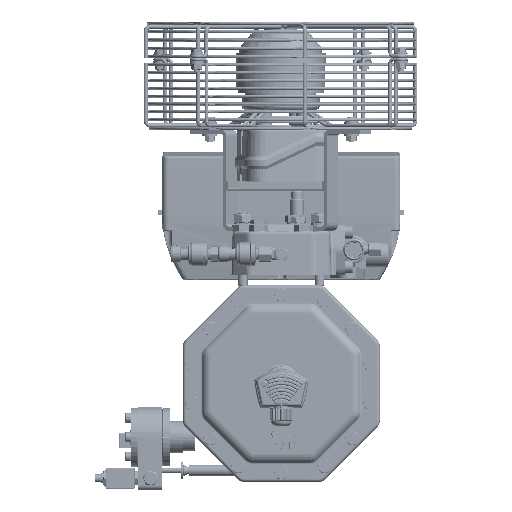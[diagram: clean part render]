
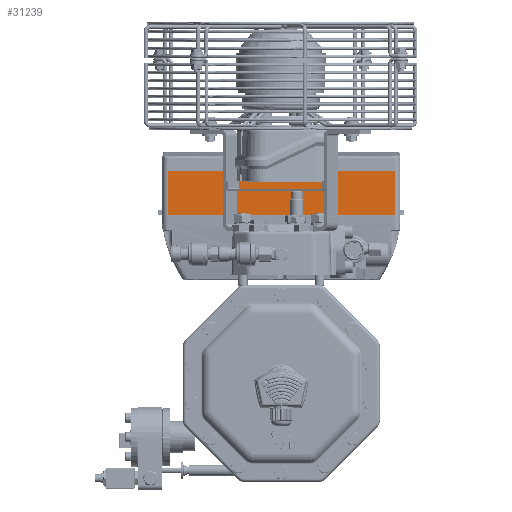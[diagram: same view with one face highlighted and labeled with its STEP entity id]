
A CAD part, left-side view. The second image highlights one B-rep face of the part: STEP entity #31239.
In plain terms, the highlighted planar face has unit normal (-1, 0, 0) as drawn and (1, 0, 0) by its records, which use the part's own axes.
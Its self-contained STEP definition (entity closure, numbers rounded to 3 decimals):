
#9634=LINE('',#207753,#14988);
#9734=LINE('',#208383,#15088);
#9735=LINE('',#208386,#15089);
#9736=LINE('',#208387,#15090);
#14988=VECTOR('',#124605,1.);
#15088=VECTOR('',#124889,1.);
#15089=VECTOR('',#124890,1.);
#15090=VECTOR('',#124891,1.);
#24515=FACE_OUTER_BOUND('',#43108,.T.);
#31239=ADVANCED_FACE('',(#24515),#35050,.T.);
#35050=PLANE('',#107156);
#43108=EDGE_LOOP('',(#62880,#62881,#62882,#62883));
#62880=ORIENTED_EDGE('',*,*,#92236,.F.);
#62881=ORIENTED_EDGE('',*,*,#92237,.T.);
#62882=ORIENTED_EDGE('',*,*,#92040,.T.);
#62883=ORIENTED_EDGE('',*,*,#92238,.T.);
#79797=VERTEX_POINT('',#207752);
#79798=VERTEX_POINT('',#207754);
#79976=VERTEX_POINT('',#208384);
#79977=VERTEX_POINT('',#208385);
#92040=EDGE_CURVE('',#79798,#79797,#9634,.T.);
#92236=EDGE_CURVE('',#79976,#79977,#9734,.T.);
#92237=EDGE_CURVE('',#79976,#79798,#9735,.T.);
#92238=EDGE_CURVE('',#79797,#79977,#9736,.T.);
#107156=AXIS2_PLACEMENT_3D('',#208388,#124892,#124893);
#124605=DIRECTION('',(0.,1.,0.));
#124889=DIRECTION('',(0.,1.,0.));
#124890=DIRECTION('',(0.,0.,-1.));
#124891=DIRECTION('',(0.,0.,1.));
#124892=DIRECTION('',(1.,0.,0.));
#124893=DIRECTION('',(0.,0.,1.));
#207752=CARTESIAN_POINT('',(73.,116.,66.));
#207753=CARTESIAN_POINT('',(73.,0.,66.));
#207754=CARTESIAN_POINT('',(73.,-116.,66.));
#208383=CARTESIAN_POINT('',(73.,0.,111.5));
#208384=CARTESIAN_POINT('',(73.,-116.,111.5));
#208385=CARTESIAN_POINT('',(73.,116.,111.5));
#208386=CARTESIAN_POINT('',(73.,-116.,114.));
#208387=CARTESIAN_POINT('',(73.,116.,114.));
#208388=CARTESIAN_POINT('',(73.,0.,114.));
